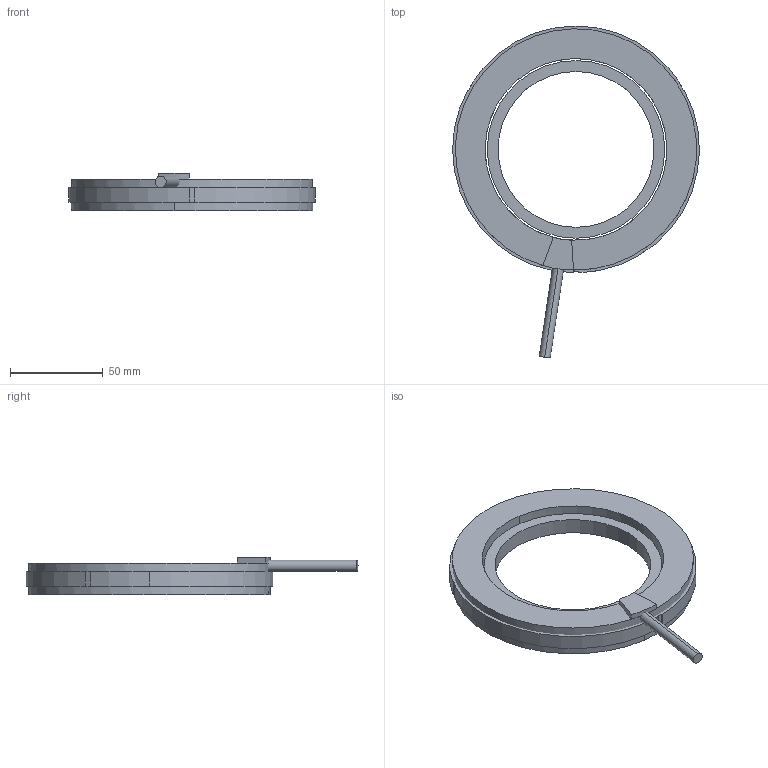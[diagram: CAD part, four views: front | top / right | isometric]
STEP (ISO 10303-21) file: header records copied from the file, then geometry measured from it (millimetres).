
FILE_DESCRIPTION (( 'STEP AP203' ), '1' );
FILE_NAME ('TM133-17 KIT.STEP', '2021-06-08T00:23:29', ( '' ), ( '' ), 'SwSTEP 2.0', 'SolidWorks 2021', '' );
FILE_SCHEMA (( 'CONFIG_CONTROL_DESIGN' ));
Length unit declared in the file: millimetre
Products named in the file (1): TM133-17 KIT
Bounding box: 133 x 178.9 x 20 mm (x, y, z)
Volume: 129703.6 mm3; surface area: 43659.3 mm2
Topology: 4 solids, 4 shells, 131 faces, 364 edges, 240 vertices
Faces by surface type: plane 72, cylinder 59
Entity records: 4307 total; most frequent: DIRECTION 750, CARTESIAN_POINT 736, ORIENTED_EDGE 728, EDGE_CURVE 364, AXIS2_PLACEMENT_3D 254, LINE 242, VECTOR 242, VERTEX_POINT 240
